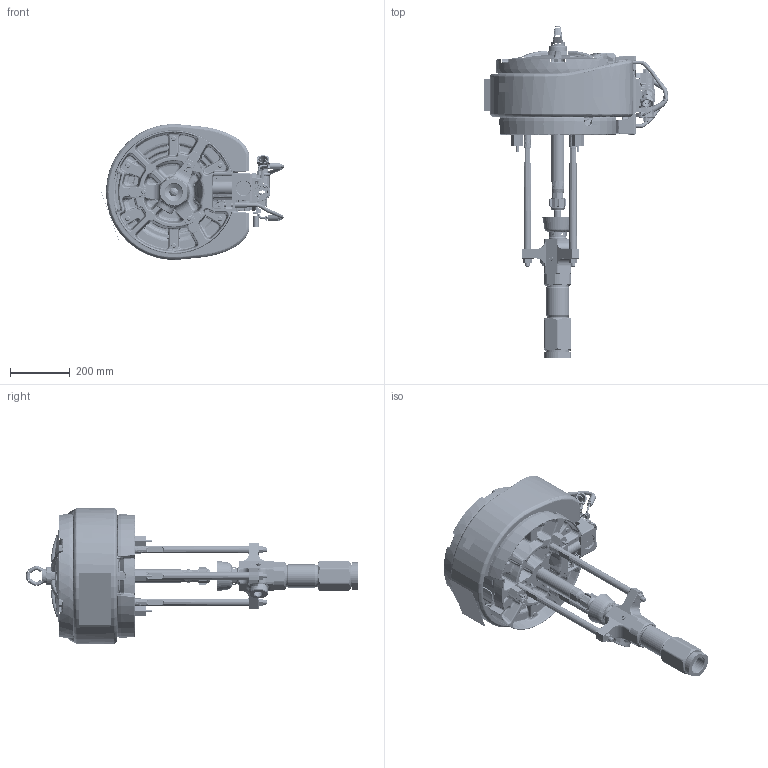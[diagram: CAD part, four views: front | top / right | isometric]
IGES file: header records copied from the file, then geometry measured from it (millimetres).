
Start section:  PTC IGES file: 24y223-en-e.igs
Global section: file name: 24y223-en-e.igs; native system: Creo Parametric by PTC Inc.; preprocessor: 2019030; author: qusrh3; organization: Unknown; date: 20200528.135254; units: inch
Bounding box: 615.5 x 1110.97 x 454.59 mm (x, y, z)
Surface area: 3588446.2 mm2 (no closed solid volume)
Topology: 0 solids, 0 shells, 4534 faces, 25448 edges, 25438 vertices
Faces by surface type: revolution 2322, bspline 2208, extrusion 4
